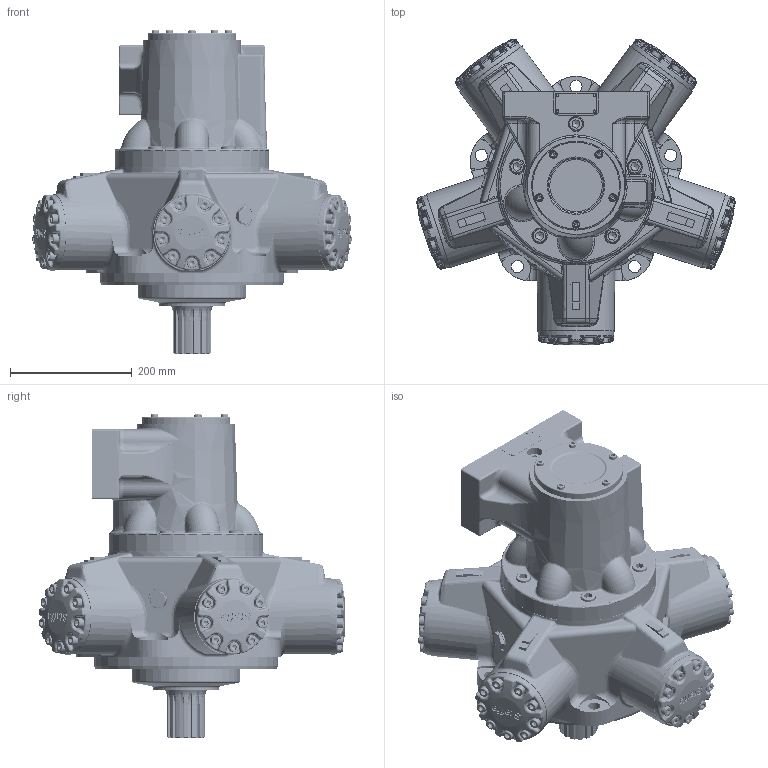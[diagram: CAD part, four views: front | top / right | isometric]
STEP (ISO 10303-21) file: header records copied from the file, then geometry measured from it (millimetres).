
FILE_DESCRIPTION(/* description */ (''),/* implementation_level */ '2;1');
FILE_NAME(/* name */ 'HMB100_S_SFM4_70.stp',/* time_stamp */ '2025-12-01T15:09:07Z',/* author */ ('ccallanga'),/* organization */ (''),/* preprocessor_version */ 'ST-DEVELOPER v20',/* originating_system */ 'Autodesk Inventor 2024',/* authorisation */ '');
FILE_SCHEMA (('AUTOMOTIVE_DESIGN { 1 0 10303 214 3 1 1 }'));
Products named in the file (1): HMB100 Web Assembly_Simplify_1
Bounding box: 524.48 x 502.42 x 530.82 mm (x, y, z)
Volume: 30088203.4 mm3; surface area: 916862.5 mm2
Topology: 1 solids, 1 shells, 5184 faces, 12441 edges, 7275 vertices
Faces by surface type: bspline 1768, plane 1373, cylinder 1114, torus 567, sphere 198, cone 164
Full cylindrical faces by diameter (mm): 5 x4, 8.376 x2, 11.328 x1, 11.913 x5, 12.7 x5, 13.835 x8, 16 x55, 16.5 x45, 16.51 x1, 17 x10, 20 x5, 23.825 x5, 25.4 x5, 26.92 x2, 38 x2, 38.1 x3, 69.825 x1, 73.914 x1, 88.901 x1, 107.95 x1, 146.05 x1, 177.8 x1, 254 x1, 301.535 x1
Entity records: 231125 total; most frequent: CARTESIAN_POINT 118768, ORIENTED_EDGE 24450, DIRECTION 18790, EDGE_CURVE 12225, AXIS2_PLACEMENT_3D 7369, VERTEX_POINT 7275, EDGE_LOOP 5436, STYLED_ITEM 5185
